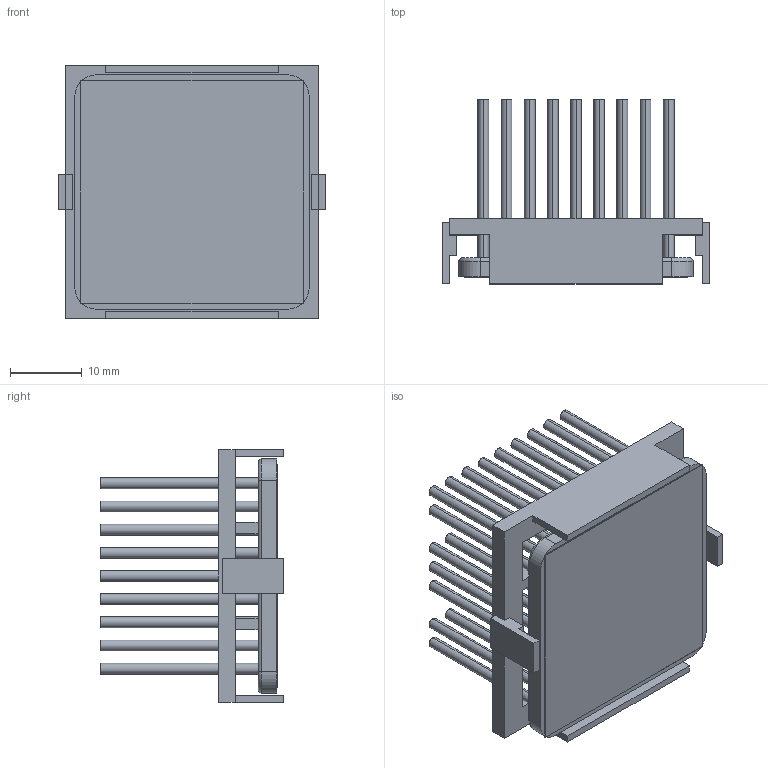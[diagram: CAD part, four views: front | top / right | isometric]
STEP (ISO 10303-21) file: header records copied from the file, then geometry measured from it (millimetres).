
FILE_DESCRIPTION (( 'STEP AP214' ), '1' );
FILE_NAME ('INM33002-25P-2.6O.STEP', '2023-03-02T20:09:51', ( '' ), ( '' ), 'SwSTEP 2.0', 'SolidWorks 2020', '' );
FILE_SCHEMA (( 'AUTOMOTIVE_DESIGN' ));
Length unit declared in the file: inch
Products named in the file (1): INM33002-25P-2.6O
Bounding box: 37.2 x 25.6 x 35.2 mm (x, y, z)
Volume: 7304.4 mm3; surface area: 14556.4 mm2
Topology: 3 solids, 3 shells, 301 faces, 658 edges, 436 vertices
Faces by surface type: cylinder 154, plane 143, torus 4
Entity records: 12339 total; most frequent: DIRECTION 1574, CARTESIAN_POINT 1396, ORIENTED_EDGE 1316, EDGE_CURVE 658, AXIS2_PLACEMENT_3D 614, VERTEX_POINT 436, EDGE_LOOP 376, VECTOR 346
